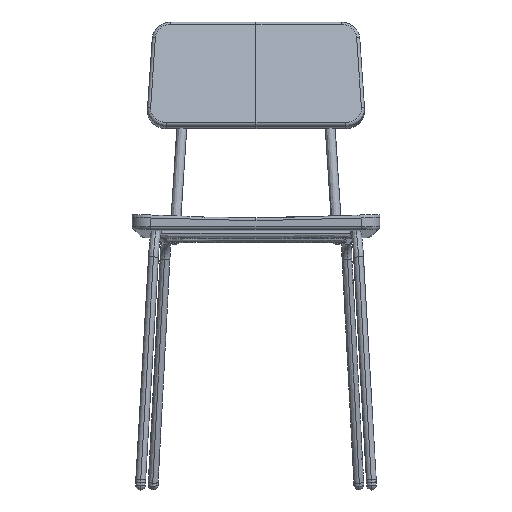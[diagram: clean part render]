
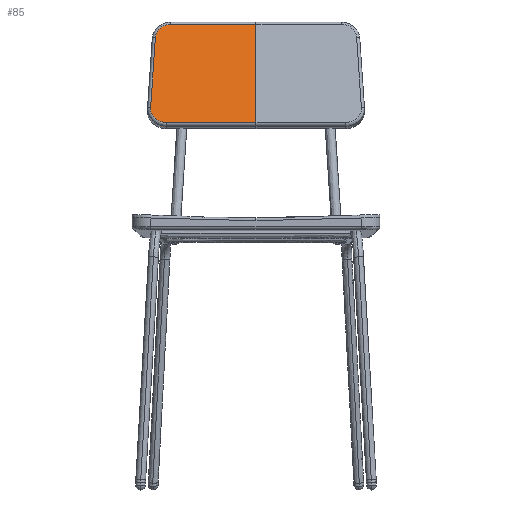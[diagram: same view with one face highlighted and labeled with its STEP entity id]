
A CAD part, front view. The second image highlights one B-rep face of the part: STEP entity #85.
In plain terms, the highlighted planar face has unit normal (0, -0.966, 0.259).
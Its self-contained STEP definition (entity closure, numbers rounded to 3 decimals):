
#23=PLANE('',#2291);
#85=ADVANCED_FACE('',(#237),#23,.T.);
#237=FACE_OUTER_BOUND('',#389,.T.);
#389=EDGE_LOOP('',(#677,#678,#679,#680,#681,#682));
#677=ORIENTED_EDGE('',*,*,#1300,.T.);
#678=ORIENTED_EDGE('',*,*,#1302,.T.);
#679=ORIENTED_EDGE('',*,*,#1305,.T.);
#680=ORIENTED_EDGE('',*,*,#1278,.T.);
#681=ORIENTED_EDGE('',*,*,#1295,.T.);
#682=ORIENTED_EDGE('',*,*,#1297,.T.);
#1278=EDGE_CURVE('',#1968,#1967,#1568,.T.);
#1295=EDGE_CURVE('',#1967,#1984,#1572,.T.);
#1297=EDGE_CURVE('',#1984,#1981,#1725,.T.);
#1300=EDGE_CURVE('',#1981,#1982,#1728,.T.);
#1302=EDGE_CURVE('',#1982,#1983,#1730,.T.);
#1305=EDGE_CURVE('',#1983,#1968,#1733,.T.);
#1568=B_SPLINE_CURVE_WITH_KNOTS('',1,(#5585,#5586),.UNSPECIFIED.,.F.,.F.,
(2,2),(2.8,166.667),.UNSPECIFIED.);
#1572=B_SPLINE_CURVE_WITH_KNOTS('',1,(#5632,#5633),.UNSPECIFIED.,.F.,.F.,
(2,2),(0.,137.151),.UNSPECIFIED.);
#1725=(
BOUNDED_CURVE()
B_SPLINE_CURVE(3,(#5637,#5638,#5639,#5640,#5641,#5642,#5643,#5644,#5645,
#5646,#5647,#5648,#5649,#5650,#5651,#5652,#5653,#5654,#5655,#5656,#5657,
#5658),.UNSPECIFIED.,.F.,.F.)
B_SPLINE_CURVE_WITH_KNOTS((4,3,3,3,3,3,3,4),(0.,9.233,
14.122,19.011,23.774,28.537,32.873,
37.209),.UNSPECIFIED.)
CURVE()
GEOMETRIC_REPRESENTATION_ITEM()
RATIONAL_B_SPLINE_CURVE((1.,1.,1.,1.,1.,1.,1.,1.,1.,1.,1.,1.,1.,1.,1.,1.,
1.,1.,1.,1.,1.,1.))
REPRESENTATION_ITEM('')
);
#1728=(
BOUNDED_CURVE()
B_SPLINE_CURVE(1,(#5664,#5665),.UNSPECIFIED.,.F.,.F.)
B_SPLINE_CURVE_WITH_KNOTS((2,2),(0.,116.158),
 .UNSPECIFIED.)
CURVE()
GEOMETRIC_REPRESENTATION_ITEM()
RATIONAL_B_SPLINE_CURVE((1.,1.))
REPRESENTATION_ITEM('')
);
#1730=(
BOUNDED_CURVE()
B_SPLINE_CURVE(3,(#5669,#5670,#5671,#5672,#5673,#5674,#5675,#5676,#5677,
#5678,#5679,#5680),.UNSPECIFIED.,.F.,.F.)
B_SPLINE_CURVE_WITH_KNOTS((4,1,1,1,1,1,1,1,1,4),(0.,2.4,
4.8,7.261,9.723,14.674,19.625,
24.714,29.802,40.174),.UNSPECIFIED.)
CURVE()
GEOMETRIC_REPRESENTATION_ITEM()
RATIONAL_B_SPLINE_CURVE((1.,1.,1.,1.,1.,1.,
1.,1.,1.,1.,1.,1.))
REPRESENTATION_ITEM('')
);
#1733=(
BOUNDED_CURVE()
B_SPLINE_CURVE(1,(#5686,#5687),.UNSPECIFIED.,.F.,.F.)
B_SPLINE_CURVE_WITH_KNOTS((2,2),(0.,144.721),
 .UNSPECIFIED.)
CURVE()
GEOMETRIC_REPRESENTATION_ITEM()
RATIONAL_B_SPLINE_CURVE((1.,1.))
REPRESENTATION_ITEM('')
);
#1967=VERTEX_POINT('',#5509);
#1968=VERTEX_POINT('',#5510);
#1981=VERTEX_POINT('',#5523);
#1982=VERTEX_POINT('',#5524);
#1983=VERTEX_POINT('',#5525);
#1984=VERTEX_POINT('',#5526);
#2291=AXIS2_PLACEMENT_3D('',#4356,#2301,$);
#2301=DIRECTION('',(0.,-0.966,0.259));
#4356=CARTESIAN_POINT('',(-218.751,185.424,567.189));
#5509=CARTESIAN_POINT('',(-0.001,234.754,751.294));
#5510=CARTESIAN_POINT('',(-0.001,192.343,593.011));
#5523=CARTESIAN_POINT('',(-162.383,228.932,729.565));
#5524=CARTESIAN_POINT('',(-169.953,198.932,617.603));
#5525=CARTESIAN_POINT('',(-144.722,192.343,593.011));
#5526=CARTESIAN_POINT('',(-137.153,234.754,751.294));
#5585=CARTESIAN_POINT('',(-0.001,192.343,593.011));
#5586=CARTESIAN_POINT('',(-0.001,234.754,751.294));
#5632=CARTESIAN_POINT('',(-0.001,234.754,751.294));
#5633=CARTESIAN_POINT('',(-137.153,234.754,751.294));
#5637=CARTESIAN_POINT('',(-137.153,234.754,751.294));
#5638=CARTESIAN_POINT('',(-140.23,234.755,751.295));
#5639=CARTESIAN_POINT('',(-143.308,234.615,750.775));
#5640=CARTESIAN_POINT('',(-146.201,234.343,749.759));
#5641=CARTESIAN_POINT('',(-147.732,234.199,749.221));
#5642=CARTESIAN_POINT('',(-149.211,234.018,748.544));
#5643=CARTESIAN_POINT('',(-150.611,233.801,747.738));
#5644=CARTESIAN_POINT('',(-152.01,233.585,746.931));
#5645=CARTESIAN_POINT('',(-153.33,233.334,745.995));
#5646=CARTESIAN_POINT('',(-154.541,233.052,744.942));
#5647=CARTESIAN_POINT('',(-155.722,232.778,743.917));
#5648=CARTESIAN_POINT('',(-156.801,232.473,742.781));
#5649=CARTESIAN_POINT('',(-157.753,232.145,741.554));
#5650=CARTESIAN_POINT('',(-158.705,231.816,740.327));
#5651=CARTESIAN_POINT('',(-159.532,231.463,739.009));
#5652=CARTESIAN_POINT('',(-160.211,231.091,737.623));
#5653=CARTESIAN_POINT('',(-160.83,230.753,736.361));
#5654=CARTESIAN_POINT('',(-161.327,230.4,735.044));
#5655=CARTESIAN_POINT('',(-161.692,230.038,733.693));
#5656=CARTESIAN_POINT('',(-162.057,229.676,732.342));
#5657=CARTESIAN_POINT('',(-162.289,229.305,730.958));
#5658=CARTESIAN_POINT('',(-162.383,228.932,729.565));
#5664=CARTESIAN_POINT('',(-162.383,228.932,729.565));
#5665=CARTESIAN_POINT('',(-169.953,198.932,617.603));
#5669=CARTESIAN_POINT('',(-169.953,198.932,617.603));
#5670=CARTESIAN_POINT('',(-170.005,198.725,616.832));
#5671=CARTESIAN_POINT('',(-170.025,198.311,615.284));
#5672=CARTESIAN_POINT('',(-169.799,197.686,612.953));
#5673=CARTESIAN_POINT('',(-169.314,197.066,610.639));
#5674=CARTESIAN_POINT('',(-168.318,196.253,607.604));
#5675=CARTESIAN_POINT('',(-166.453,195.295,604.029));
#5676=CARTESIAN_POINT('',(-163.312,194.28,600.242));
#5677=CARTESIAN_POINT('',(-159.406,193.444,597.122));
#5678=CARTESIAN_POINT('',(-153.334,192.605,593.99));
#5679=CARTESIAN_POINT('',(-148.18,192.342,593.009));
#5680=CARTESIAN_POINT('',(-144.722,192.343,593.011));
#5686=CARTESIAN_POINT('',(-144.722,192.343,593.011));
#5687=CARTESIAN_POINT('',(-0.001,192.343,593.011));
